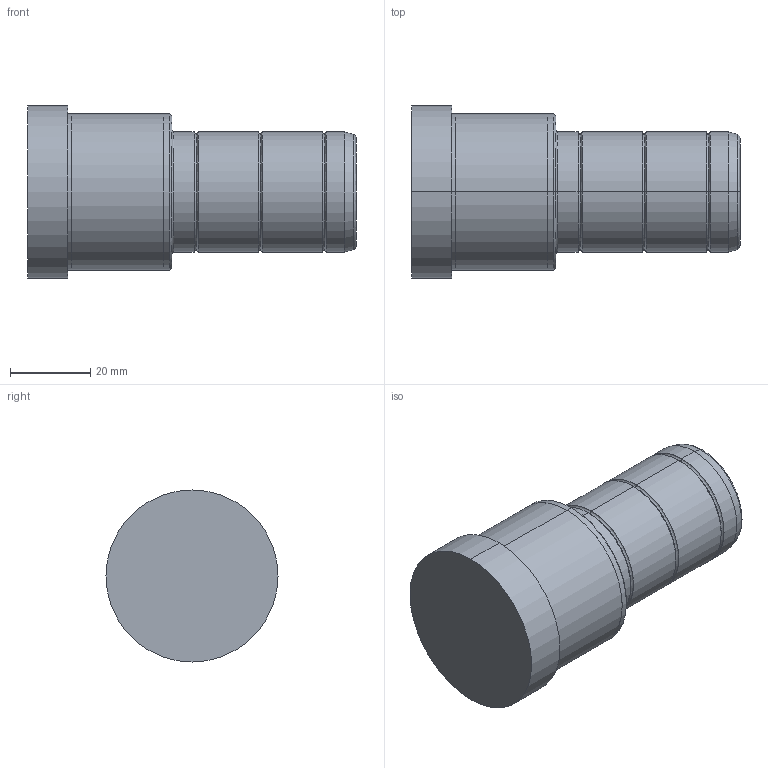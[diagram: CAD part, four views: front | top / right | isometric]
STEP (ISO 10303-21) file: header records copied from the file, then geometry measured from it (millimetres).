
FILE_DESCRIPTION( ( 'STEP AP203' ), '1' );
FILE_NAME( 'C:/Projects/D02 - 30x36x46.step', '2002-12-31T22:36:08', ( ' ' ), ( ' ' ), 'XStep 1.0', ' ', ' ' );
FILE_SCHEMA( ( 'CONFIG_CONTROL_DESIGN' ) );
Length unit declared in the file: metre
Products named in the file (1): 1
Bounding box: 82 x 43 x 43 mm (x, y, z)
Volume: 77883.9 mm3; surface area: 11783.8 mm2
Topology: 1 solids, 1 shells, 42 faces, 82 edges, 46 vertices
Faces by surface type: bspline 22, revolution 20
Entity records: 1325 total; most frequent: CARTESIAN_POINT 517, ORIENTED_EDGE 164, DIRECTION 134, EDGE_CURVE 82, AXIS2_PLACEMENT_3D 47, EDGE_LOOP 46, VERTEX_POINT 46, CIRCLE 46
